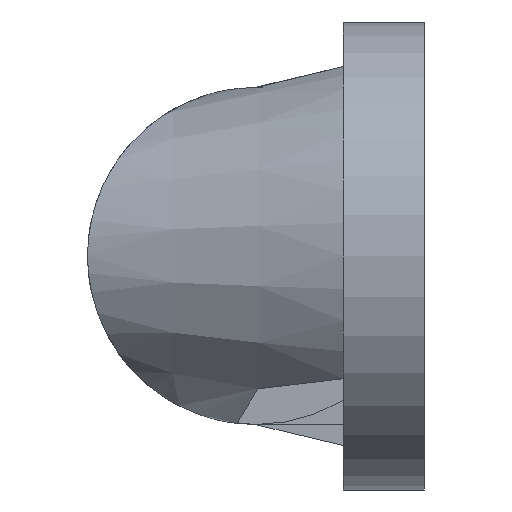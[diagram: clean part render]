
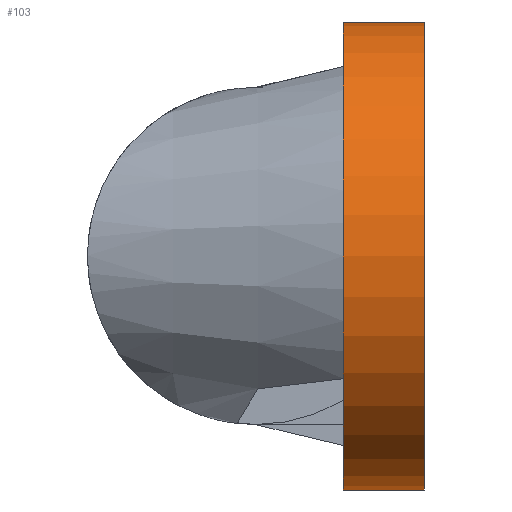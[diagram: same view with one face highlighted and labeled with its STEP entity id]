
A CAD part, left-side view. The second image highlights one B-rep face of the part: STEP entity #103.
In plain terms, the highlighted cylindrical face has radius 18.75 mm (diameter 37.5 mm), a partial arc.
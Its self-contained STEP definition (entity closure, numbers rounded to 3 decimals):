
#8 = LINE ( 'NONE', #578, #182 ) ;
#31 = CARTESIAN_POINT ( 'NONE',  ( -43., 0., -18.75 ) ) ;
#59 = DIRECTION ( 'NONE',  ( 0., -1., 0. ) ) ;
#64 = AXIS2_PLACEMENT_3D ( 'NONE', #124, #701, #635 ) ;
#65 = DIRECTION ( 'NONE',  ( 0., -1., 0. ) ) ;
#80 = AXIS2_PLACEMENT_3D ( 'NONE', #479, #786, #81 ) ;
#81 = DIRECTION ( 'NONE',  ( 0., 0., -1. ) ) ;
#100 = CIRCLE ( 'NONE', #754, 18.75 ) ;
#103 = ADVANCED_FACE ( 'NONE', ( #771 ), #442, .T. ) ;
#113 = VERTEX_POINT ( 'NONE', #525 ) ;
#124 = CARTESIAN_POINT ( 'NONE',  ( -43., 0., 0. ) ) ;
#159 = CIRCLE ( 'NONE', #64, 18.75 ) ;
#177 = VERTEX_POINT ( 'NONE', #31 ) ;
#182 = VECTOR ( 'NONE', #65, 1000. ) ;
#258 = DIRECTION ( 'NONE',  ( 0., -1., 0. ) ) ;
#284 = VERTEX_POINT ( 'NONE', #555 ) ;
#321 = EDGE_CURVE ( 'NONE', #284, #177, #159, .T. ) ;
#400 = ORIENTED_EDGE ( 'NONE', *, *, #321, .F. ) ;
#422 = VERTEX_POINT ( 'NONE', #752 ) ;
#428 = VECTOR ( 'NONE', #59, 1000. ) ;
#442 = CYLINDRICAL_SURFACE ( 'NONE', #80, 18.75 ) ;
#448 = CARTESIAN_POINT ( 'NONE',  ( -43., 6.5, 18.75 ) ) ;
#479 = CARTESIAN_POINT ( 'NONE',  ( -43., 6.5, 0. ) ) ;
#508 = EDGE_CURVE ( 'NONE', #422, #177, #8, .T. ) ;
#516 = EDGE_LOOP ( 'NONE', ( #400, #641, #676, #661 ) ) ;
#525 = CARTESIAN_POINT ( 'NONE',  ( -43., 6.5, 18.75 ) ) ;
#555 = CARTESIAN_POINT ( 'NONE',  ( -43., 0., 18.75 ) ) ;
#570 = LINE ( 'NONE', #448, #428 ) ;
#578 = CARTESIAN_POINT ( 'NONE',  ( -43., 6.5, -18.75 ) ) ;
#635 = DIRECTION ( 'NONE',  ( 0., 0., 1. ) ) ;
#636 = CARTESIAN_POINT ( 'NONE',  ( -43., 6.5, 0. ) ) ;
#637 = EDGE_CURVE ( 'NONE', #113, #284, #570, .T. ) ;
#641 = ORIENTED_EDGE ( 'NONE', *, *, #637, .F. ) ;
#646 = EDGE_CURVE ( 'NONE', #113, #422, #100, .T. ) ;
#661 = ORIENTED_EDGE ( 'NONE', *, *, #508, .T. ) ;
#676 = ORIENTED_EDGE ( 'NONE', *, *, #646, .T. ) ;
#701 = DIRECTION ( 'NONE',  ( 0., -1., 0. ) ) ;
#702 = DIRECTION ( 'NONE',  ( 0., 0., 1. ) ) ;
#752 = CARTESIAN_POINT ( 'NONE',  ( -43., 6.5, -18.75 ) ) ;
#754 = AXIS2_PLACEMENT_3D ( 'NONE', #636, #258, #702 ) ;
#771 = FACE_OUTER_BOUND ( 'NONE', #516, .T. ) ;
#786 = DIRECTION ( 'NONE',  ( 0., -1., 0. ) ) ;
